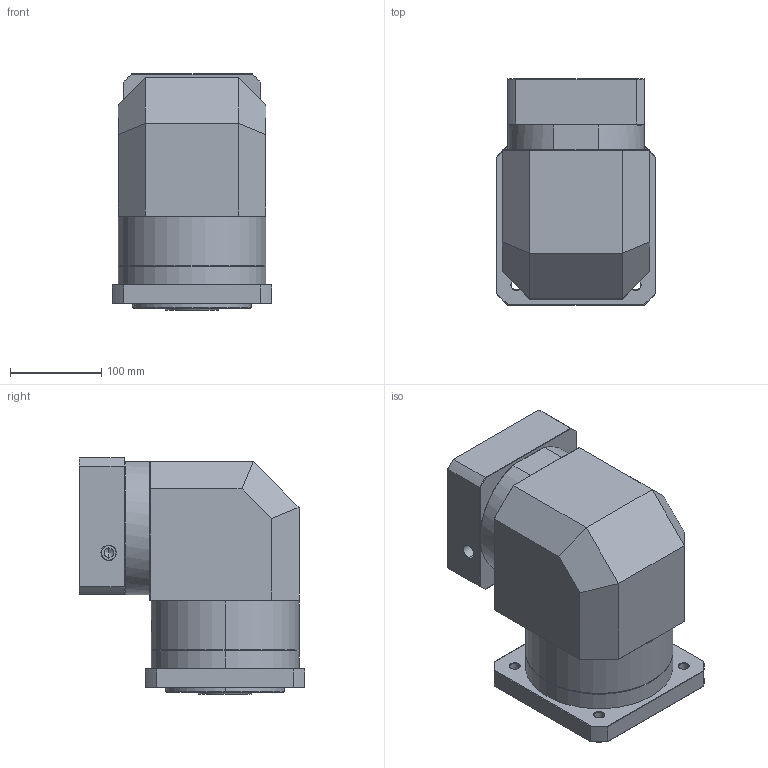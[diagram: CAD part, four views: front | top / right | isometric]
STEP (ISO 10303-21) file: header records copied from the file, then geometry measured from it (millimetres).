
FILE_DESCRIPTION (( 'STEP AP214' ), '1' );
FILE_NAME ('ZFR160A-K35-L1-P2-28-130-174-M10.step', '2023-09-03T09:00:52', ( '' ), ( '' ), 'SwSTEP 2.0', 'SolidWorks 2016', '' );
FILE_SCHEMA (( 'AUTOMOTIVE_DESIGN' ));
Length unit declared in the file: millimetre
Products named in the file (1): ZFR160A-K35-L1-P2-28-130-174-M10
Bounding box: 175 x 247.5 x 258.7 mm (x, y, z)
Volume: 6469058.1 mm3; surface area: 434779 mm2
Topology: 6 solids, 6 shells, 2146 faces, 5673 edges, 3633 vertices
Faces by surface type: plane 1041, bspline 407, cylinder 377, cone 301, torus 20
Entity records: 119968 total; most frequent: CARTESIAN_POINT 48397, ORIENTED_EDGE 11290, DIRECTION 8176, EDGE_CURVE 5645, VERTEX_POINT 3633, LINE 3030, VECTOR 3030, AXIS2_PLACEMENT_3D 2573
